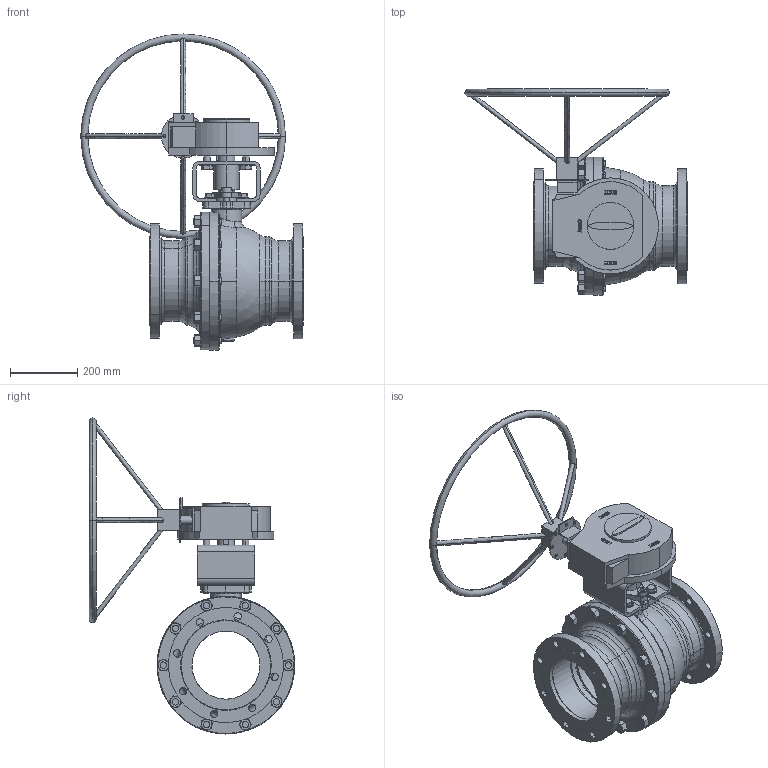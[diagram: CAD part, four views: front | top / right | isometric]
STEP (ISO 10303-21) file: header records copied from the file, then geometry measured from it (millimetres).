
FILE_DESCRIPTION(('Open CASCADE Model'),'2;1');
FILE_NAME('Open CASCADE Shape Model','2021-11-19T09:27:43',('Author'),( 'Open CASCADE'),'Open CASCADE STEP processor 7.3','Open CASCADE 7.3' ,'Unknown');
FILE_SCHEMA(('AUTOMOTIVE_DESIGN { 1 0 10303 214 1 1 1 1 }'));
Length unit declared in the file: millimetre
Products named in the file (55): Open CASCADE STEP translator 7.3 1; Open CASCADE STEP translator 7.3 1.1; Open CASCADE STEP translator 7.3 1.2; Open CASCADE STEP translator 7.3 1.3; Open CASCADE STEP translator 7.3 1.4; Open CASCADE STEP translator 7.3 1.5; Open CASCADE STEP translator 7.3 1.6; Open CASCADE STEP translator 7.3 1.7; Open CASCADE STEP translator 7.3 1.8; Open CASCADE STEP translator 7.3 1.9; Open CASCADE STEP translator 7.3 1.10; Open CASCADE STEP translator 7.3 1.11; Open CASCADE STEP translator 7.3 1.12; Open CASCADE STEP translator 7.3 1.13; Open CASCADE STEP translator 7.3 1.14; Open CASCADE STEP translator 7.3 1.15; Open CASCADE STEP translator 7.3 1.16; Open CASCADE STEP translator 7.3 1.17; Open CASCADE STEP translator 7.3 1.18; Open CASCADE STEP translator 7.3 1.19; Open CASCADE STEP translator 7.3 1.20; Open CASCADE STEP translator 7.3 1.21; Open CASCADE STEP translator 7.3 1.22; Open CASCADE STEP translator 7.3 1.23; Open CASCADE STEP translator 7.3 1.24; Open CASCADE STEP translator 7.3 1.25; Open CASCADE STEP translator 7.3 1.26; Open CASCADE STEP translator 7.3 1.27; Open CASCADE STEP translator 7.3 1.28; Open CASCADE STEP translator 7.3 1.29; Open CASCADE STEP translator 7.3 1.30; Open CASCADE STEP translator 7.3 1.31; Open CASCADE STEP translator 7.3 1.32; Open CASCADE STEP translator 7.3 1.33; Open CASCADE STEP translator 7.3 1.34; Open CASCADE STEP translator 7.3 1.35; Open CASCADE STEP translator 7.3 1.36; Open CASCADE STEP translator 7.3 1.37; Open CASCADE STEP translator 7.3 1.38; Open CASCADE STEP translator 7.3 1.39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
Assembly tree (54 placements, depth 2):
  Open CASCADE STEP translator 7.3 1
    Open CASCADE STEP translator 7.3 1.1
    Open CASCADE STEP translator 7.3 1.2
    Open CASCADE STEP translator 7.3 1.3
    Open CASCADE STEP translator 7.3 1.4
    Open CASCADE STEP translator 7.3 1.5
    Open CASCADE STEP translator 7.3 1.6
    Open CASCADE STEP translator 7.3 1.7
    Open CASCADE STEP translator 7.3 1.8
    Open CASCADE STEP translator 7.3 1.9
    Open CASCADE STEP translator 7.3 1.10
    Open CASCADE STEP translator 7.3 1.11
    Open CASCADE STEP translator 7.3 1.12
    Open CASCADE STEP translator 7.3 1.13
    Open CASCADE STEP translator 7.3 1.14
    Open CASCADE STEP translator 7.3 1.15
    Open CASCADE STEP translator 7.3 1.16
    Open CASCADE STEP translator 7.3 1.17
    Open CASCADE STEP translator 7.3 1.18
    Open CASCADE STEP translator 7.3 1.19
    Open CASCADE STEP translator 7.3 1.20
    Open CASCADE STEP translator 7.3 1.21
    Open CASCADE STEP translator 7.3 1.22
    Open CASCADE STEP translator 7.3 1.23
    Open CASCADE STEP translator 7.3 1.24
    Open CASCADE STEP translator 7.3 1.25
    Open CASCADE STEP translator 7.3 1.26
    Open CASCADE STEP translator 7.3 1.27
    Open CASCADE STEP translator 7.3 1.28
    Open CASCADE STEP translator 7.3 1.29
    Open CASCADE STEP translator 7.3 1.30
    Open CASCADE STEP translator 7.3 1.31
    Open CASCADE STEP translator 7.3 1.32
    Open CASCADE STEP translator 7.3 1.33
    Open CASCADE STEP translator 7.3 1.34
    Open CASCADE STEP translator 7.3 1.35
    Open CASCADE STEP translator 7.3 1.36
    Open CASCADE STEP translator 7.3 1.37
    Open CASCADE STEP translator 7.3 1.38
    Open CASCADE STEP translator 7.3 1.39
    Open CASCADE STEP translator 7.3 1.40
    Open CASCADE STEP translator 7.3 1.41
    Open CASCADE STEP translator 7.3 1.42
    Open CASCADE STEP translator 7.3 1.43
    Open CASCADE STEP translator 7.3 1.44
    Open CASCADE STEP translator 7.3 1.45
    Open CASCADE STEP translator 7.3 1.46
    Open CASCADE STEP translator 7.3 1.47
    Open CASCADE STEP translator 7.3 1.48
    Open CASCADE STEP translator 7.3 1.49
    Open CASCADE STEP translator 7.3 1.50
    Open CASCADE STEP translator 7.3 1.51
    Open CASCADE STEP translator 7.3 1.52
    Open CASCADE STEP translator 7.3 1.53
    Open CASCADE STEP translator 7.3 1.54
Bounding box: 662.75 x 613.5 x 942.5 mm (x, y, z)
Volume: 27506673.9 mm3; surface area: 2894583.9 mm2
Topology: 54 solids, 54 shells, 1584 faces, 3971 edges, 2531 vertices
Faces by surface type: plane 596, cylinder 483, cone 239, bspline 181, torus 73, sphere 12
Entity records: 138503 total; most frequent: CARTESIAN_POINT 62494, DIRECTION 12781, ORIENTED_EDGE 7922, PCURVE 7922, DEFINITIONAL_REPRESENTATION 7922, LINE 6594, VECTOR 6594, EDGE_CURVE 3961
